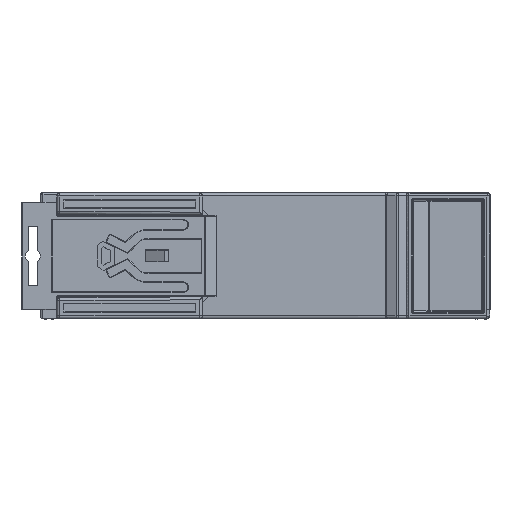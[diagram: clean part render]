
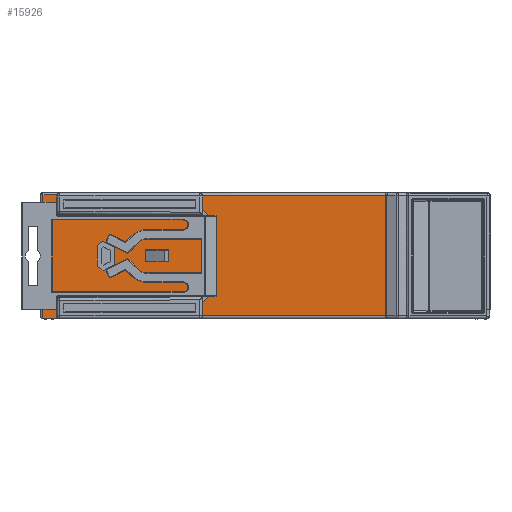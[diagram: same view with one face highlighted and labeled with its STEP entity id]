
A CAD part, left-side view. The second image highlights one B-rep face of the part: STEP entity #15926.
In plain terms, the highlighted planar face has unit normal (-1, 0, 0).
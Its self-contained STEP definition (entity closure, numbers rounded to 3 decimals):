
#744=CARTESIAN_POINT('',(-44.75,10.4,0.5));
#794=DIRECTION('',(0.,0.894,0.447));
#795=VECTOR('',#794,2.282);
#796=CARTESIAN_POINT('',(-44.75,25.,11.95));
#797=LINE('',#796,#795);
#798=DIRECTION('',(0.,0.81,-0.587));
#799=VECTOR('',#798,1.185);
#800=CARTESIAN_POINT('',(-44.75,27.041,12.97));
#801=LINE('',#800,#799);
#802=DIRECTION('',(0.,0.,-1.));
#803=VECTOR('',#802,3.5);
#804=CARTESIAN_POINT('',(-44.75,28.,12.275));
#805=LINE('',#804,#803);
#806=DIRECTION('',(0.,-0.81,-0.587));
#807=VECTOR('',#806,1.235);
#808=CARTESIAN_POINT('',(-44.75,28.,8.775));
#809=LINE('',#808,#807);
#810=DIRECTION('',(0.,-0.894,0.447));
#811=VECTOR('',#810,2.236);
#812=CARTESIAN_POINT('',(-44.75,27.,8.05));
#813=LINE('',#812,#811);
#814=DIRECTION('',(0.,0.,1.));
#815=VECTOR('',#814,2.9);
#816=CARTESIAN_POINT('',(-44.75,25.,9.05));
#817=LINE('',#816,#815);
#818=DIRECTION('',(0.,1.,0.));
#819=VECTOR('',#818,3.9);
#820=CARTESIAN_POINT('',(-44.75,16.,9.5));
#821=LINE('',#820,#819);
#822=DIRECTION('',(0.,0.,1.));
#823=VECTOR('',#822,2.);
#824=CARTESIAN_POINT('',(-44.75,16.,9.5));
#825=LINE('',#824,#823);
#826=DIRECTION('',(0.,1.,0.));
#827=VECTOR('',#826,3.9);
#828=CARTESIAN_POINT('',(-44.75,16.,11.5));
#829=LINE('',#828,#827);
#830=DIRECTION('',(0.,0.,1.));
#831=VECTOR('',#830,2.);
#832=CARTESIAN_POINT('',(-44.75,19.9,9.5));
#833=LINE('',#832,#831);
#834=DIRECTION('',(0.,0.,1.));
#835=VECTOR('',#834,20.697);
#836=CARTESIAN_POINT('',(-44.75,37.,0.003));
#837=LINE('',#836,#835);
#838=DIRECTION('',(0.,1.,0.));
#839=VECTOR('',#838,2.342);
#840=CARTESIAN_POINT('',(-44.75,34.658,20.7));
#841=LINE('',#840,#839);
#842=DIRECTION('',(0.,0.,-1.));
#843=VECTOR('',#842,1.492);
#844=CARTESIAN_POINT('',(-44.75,34.7,20.5));
#845=LINE('',#844,#843);
#846=DIRECTION('',(0.,-1.,-0.009));
#847=VECTOR('',#846,23.805);
#848=CARTESIAN_POINT('',(-44.75,34.204,18.508));
#849=LINE('',#848,#847);
#850=DIRECTION('',(0.,-1.,0.));
#851=VECTOR('',#850,30.561);
#852=CARTESIAN_POINT('',(-44.75,10.4,20.5));
#853=LINE('',#852,#851);
#854=DIRECTION('',(0.,0.,1.));
#855=VECTOR('',#854,20.);
#856=CARTESIAN_POINT('',(-44.75,-20.161,0.5));
#857=LINE('',#856,#855);
#858=DIRECTION('',(0.,1.,0.));
#859=VECTOR('',#858,30.561);
#860=CARTESIAN_POINT('',(-44.75,-20.161,0.5));
#861=LINE('',#860,#859);
#862=DIRECTION('',(0.,0.,-1.));
#863=VECTOR('',#862,1.492);
#864=CARTESIAN_POINT('',(-44.75,34.7,1.992));
#865=LINE('',#864,#863);
#866=DIRECTION('',(0.,1.,0.));
#867=VECTOR('',#866,2.742);
#868=CARTESIAN_POINT('',(-44.75,34.2,0.));
#869=LINE('',#868,#867);
#870=CARTESIAN_POINT('',(-44.75,36.942,0.5));
#871=DIRECTION('',(-1.,0.,0.));
#872=DIRECTION('',(0.,0.117,-0.993));
#873=AXIS2_PLACEMENT_3D('',#870,#871,#872);
#5567=DIRECTION('',(0.,0.,-1.));
#5568=VECTOR('',#5567,2.2);
#5569=CARTESIAN_POINT('',(-44.75,10.4,20.5));
#5570=LINE('',#5569,#5568);
#5587=DIRECTION('',(0.,0.,-1.));
#5588=VECTOR('',#5587,2.2);
#5589=CARTESIAN_POINT('',(-44.75,10.4,2.7));
#5590=LINE('',#5589,#5588);
#5615=CARTESIAN_POINT('',(-44.75,34.2,19.008));
#5616=DIRECTION('',(1.,0.,0.));
#5617=DIRECTION('',(0.,0.009,-1.));
#5618=AXIS2_PLACEMENT_3D('',#5615,#5616,#5617);
#5670=CARTESIAN_POINT('',(-44.75,34.2,20.5));
#5671=DIRECTION('',(1.,0.,0.));
#5672=DIRECTION('',(0.,1.,0.));
#5673=AXIS2_PLACEMENT_3D('',#5670,#5671,#5672);
#10145=CARTESIAN_POINT('',(-44.75,10.4,20.5));
#10239=CARTESIAN_POINT('',(-44.75,34.2,1.992));
#10240=DIRECTION('',(1.,0.,0.));
#10241=DIRECTION('',(0.,1.,0.));
#10242=AXIS2_PLACEMENT_3D('',#10239,#10240,#10241);
#10292=DIRECTION('',(0.,-1.,0.009));
#10293=VECTOR('',#10292,23.805);
#10294=CARTESIAN_POINT('',(-44.75,34.204,2.492));
#10295=LINE('',#10294,#10293);
#10351=CARTESIAN_POINT('',(-44.75,34.2,0.5));
#10352=DIRECTION('',(1.,0.,0.));
#10353=DIRECTION('',(0.,0.,-1.));
#10354=AXIS2_PLACEMENT_3D('',#10351,#10352,#10353);
#12118=VERTEX_POINT('',#744);
#12140=CARTESIAN_POINT('',(-44.75,34.7,1.992));
#12141=CARTESIAN_POINT('',(-44.75,34.204,2.492));
#12142=VERTEX_POINT('',#12140);
#12143=VERTEX_POINT('',#12141);
#12144=VERTEX_POINT('',#10145);
#12164=CARTESIAN_POINT('',(-44.75,34.204,18.508));
#12165=CARTESIAN_POINT('',(-44.75,34.7,19.008));
#12166=VERTEX_POINT('',#12164);
#12167=VERTEX_POINT('',#12165);
#12170=CARTESIAN_POINT('',(-44.75,-20.161,20.5));
#12171=VERTEX_POINT('',#12170);
#12182=CARTESIAN_POINT('',(-44.75,-20.161,0.5));
#12183=VERTEX_POINT('',#12182);
#12808=CARTESIAN_POINT('',(-44.75,37.,0.003));
#12809=CARTESIAN_POINT('',(-44.75,37.,20.7));
#12810=VERTEX_POINT('',#12808);
#12811=VERTEX_POINT('',#12809);
#12812=CARTESIAN_POINT('',(-44.75,34.658,20.7));
#12813=VERTEX_POINT('',#12812);
#13068=CARTESIAN_POINT('',(-44.75,10.4,18.3));
#13069=VERTEX_POINT('',#13068);
#13070=CARTESIAN_POINT('',(-44.75,10.4,2.7));
#13071=VERTEX_POINT('',#13070);
#13072=CARTESIAN_POINT('',(-44.75,34.7,20.5));
#13073=VERTEX_POINT('',#13072);
#13074=CARTESIAN_POINT('',(-44.75,34.7,0.5));
#13075=VERTEX_POINT('',#13074);
#13579=CARTESIAN_POINT('',(-44.75,34.2,0.));
#13580=VERTEX_POINT('',#13579);
#14482=CARTESIAN_POINT('',(-44.75,36.942,0.));
#14483=VERTEX_POINT('',#14482);
#14709=CARTESIAN_POINT('',(-44.75,25.,11.95));
#14710=CARTESIAN_POINT('',(-44.75,27.041,12.97));
#14711=VERTEX_POINT('',#14709);
#14712=VERTEX_POINT('',#14710);
#14713=CARTESIAN_POINT('',(-44.75,28.,12.275));
#14714=VERTEX_POINT('',#14713);
#14715=CARTESIAN_POINT('',(-44.75,28.,8.775));
#14716=VERTEX_POINT('',#14715);
#14717=CARTESIAN_POINT('',(-44.75,27.,8.05));
#14718=VERTEX_POINT('',#14717);
#14719=CARTESIAN_POINT('',(-44.75,25.,9.05));
#14720=VERTEX_POINT('',#14719);
#14741=CARTESIAN_POINT('',(-44.75,16.,9.5));
#14742=CARTESIAN_POINT('',(-44.75,19.9,9.5));
#14743=VERTEX_POINT('',#14741);
#14744=VERTEX_POINT('',#14742);
#14745=CARTESIAN_POINT('',(-44.75,16.,11.5));
#14746=CARTESIAN_POINT('',(-44.75,19.9,11.5));
#14747=VERTEX_POINT('',#14745);
#14748=VERTEX_POINT('',#14746);
#15864=CARTESIAN_POINT('',(-44.75,-25.05,21.));
#15865=DIRECTION('',(1.,0.,0.));
#15866=DIRECTION('',(0.,1.,0.));
#15867=AXIS2_PLACEMENT_3D('',#15864,#15865,#15866);
#15868=PLANE('',#15867);
#15870=ORIENTED_EDGE('',*,*,#15869,.T.);
#15872=ORIENTED_EDGE('',*,*,#15871,.F.);
#15874=ORIENTED_EDGE('',*,*,#15873,.F.);
#15876=ORIENTED_EDGE('',*,*,#15875,.T.);
#15878=ORIENTED_EDGE('',*,*,#15877,.F.);
#15880=ORIENTED_EDGE('',*,*,#15879,.T.);
#15882=ORIENTED_EDGE('',*,*,#15881,.F.);
#15884=ORIENTED_EDGE('',*,*,#15883,.T.);
#15885=ORIENTED_EDGE('',*,*,#15793,.F.);
#15886=ORIENTED_EDGE('',*,*,#15819,.T.);
#15888=ORIENTED_EDGE('',*,*,#15887,.F.);
#15890=ORIENTED_EDGE('',*,*,#15889,.F.);
#15892=ORIENTED_EDGE('',*,*,#15891,.F.);
#15894=ORIENTED_EDGE('',*,*,#15893,.T.);
#15896=ORIENTED_EDGE('',*,*,#15895,.F.);
#15897=ORIENTED_EDGE('',*,*,#15412,.T.);
#15899=ORIENTED_EDGE('',*,*,#15898,.F.);
#15900=EDGE_LOOP('',(#15870,#15872,#15874,#15876,#15878,#15880,#15882,#15884,
#15885,#15886,#15888,#15890,#15892,#15894,#15896,#15897,#15899));
#15901=FACE_OUTER_BOUND('',#15900,.F.);
#15903=ORIENTED_EDGE('',*,*,#15902,.T.);
#15905=ORIENTED_EDGE('',*,*,#15904,.T.);
#15907=ORIENTED_EDGE('',*,*,#15906,.T.);
#15909=ORIENTED_EDGE('',*,*,#15908,.T.);
#15911=ORIENTED_EDGE('',*,*,#15910,.T.);
#15913=ORIENTED_EDGE('',*,*,#15912,.T.);
#15914=EDGE_LOOP('',(#15903,#15905,#15907,#15909,#15911,#15913));
#15915=FACE_BOUND('',#15914,.F.);
#15917=ORIENTED_EDGE('',*,*,#15916,.F.);
#15919=ORIENTED_EDGE('',*,*,#15918,.T.);
#15921=ORIENTED_EDGE('',*,*,#15920,.T.);
#15923=ORIENTED_EDGE('',*,*,#15922,.F.);
#15924=EDGE_LOOP('',(#15917,#15919,#15921,#15923));
#15925=FACE_BOUND('',#15924,.F.);
#874=CIRCLE('',#873,0.5);
#5619=CIRCLE('',#5618,0.5);
#5674=CIRCLE('',#5673,0.5);
#10243=CIRCLE('',#10242,0.5);
#10355=CIRCLE('',#10354,0.5);
#15412=EDGE_CURVE('',#13580,#14483,#869,.T.);
#15793=EDGE_CURVE('',#12183,#12171,#857,.T.);
#15819=EDGE_CURVE('',#12183,#12118,#861,.T.);
#15869=EDGE_CURVE('',#12810,#12811,#837,.T.);
#15871=EDGE_CURVE('',#12813,#12811,#841,.T.);
#15873=EDGE_CURVE('',#13073,#12813,#5674,.T.);
#15875=EDGE_CURVE('',#13073,#12167,#845,.T.);
#15877=EDGE_CURVE('',#12166,#12167,#5619,.T.);
#15879=EDGE_CURVE('',#12166,#13069,#849,.T.);
#15881=EDGE_CURVE('',#12144,#13069,#5570,.T.);
#15883=EDGE_CURVE('',#12144,#12171,#853,.T.);
#15887=EDGE_CURVE('',#13071,#12118,#5590,.T.);
#15889=EDGE_CURVE('',#12143,#13071,#10295,.T.);
#15891=EDGE_CURVE('',#12142,#12143,#10243,.T.);
#15893=EDGE_CURVE('',#12142,#13075,#865,.T.);
#15895=EDGE_CURVE('',#13580,#13075,#10355,.T.);
#15898=EDGE_CURVE('',#12810,#14483,#874,.T.);
#15902=EDGE_CURVE('',#14711,#14712,#797,.T.);
#15904=EDGE_CURVE('',#14712,#14714,#801,.T.);
#15906=EDGE_CURVE('',#14714,#14716,#805,.T.);
#15908=EDGE_CURVE('',#14716,#14718,#809,.T.);
#15910=EDGE_CURVE('',#14718,#14720,#813,.T.);
#15912=EDGE_CURVE('',#14720,#14711,#817,.T.);
#15916=EDGE_CURVE('',#14743,#14744,#821,.T.);
#15918=EDGE_CURVE('',#14743,#14747,#825,.T.);
#15920=EDGE_CURVE('',#14747,#14748,#829,.T.);
#15922=EDGE_CURVE('',#14744,#14748,#833,.T.);
#15926=ADVANCED_FACE('',(#15901,#15915,#15925),#15868,.F.);
